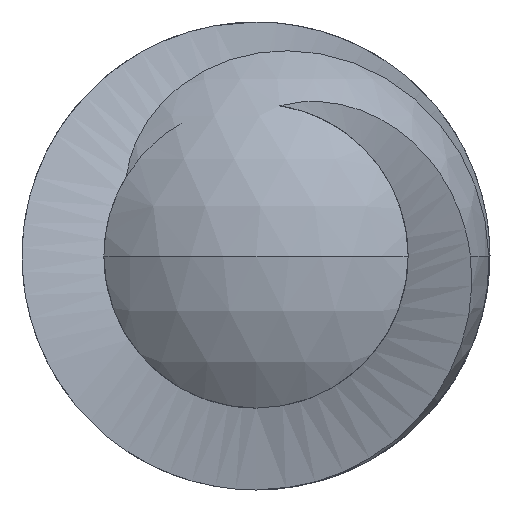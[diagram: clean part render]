
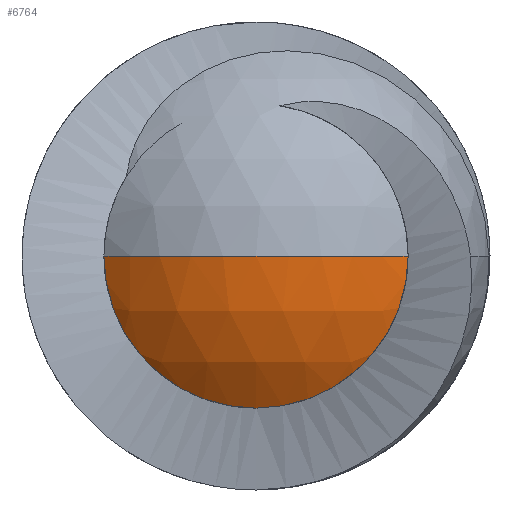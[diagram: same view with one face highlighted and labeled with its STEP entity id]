
A CAD part, left-side view. The second image highlights one B-rep face of the part: STEP entity #6764.
In plain terms, the highlighted spherical face has radius 10 mm.
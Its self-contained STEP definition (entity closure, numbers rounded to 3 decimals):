
#187 = DIRECTION ( 'NONE',  ( -1., 0., 0. ) ) ;
#409 = CARTESIAN_POINT ( 'NONE',  ( 2.401, 6.5, 0. ) ) ;
#585 = DIRECTION ( 'NONE',  ( 0., 0., 1. ) ) ;
#908 = EDGE_CURVE ( 'NONE', #6677, #5408, #6614, .T. ) ;
#1063 = ORIENTED_EDGE ( 'NONE', *, *, #8147, .T. ) ;
#1213 = CARTESIAN_POINT ( 'NONE',  ( 0., 0., 0. ) ) ;
#1290 = CARTESIAN_POINT ( 'NONE',  ( 10., 0., 0. ) ) ;
#1343 = ORIENTED_EDGE ( 'NONE', *, *, #908, .T. ) ;
#1570 = CARTESIAN_POINT ( 'NONE',  ( 10., 0., 0. ) ) ;
#2053 = CIRCLE ( 'NONE', #5266, 6.5 ) ;
#2284 = DIRECTION ( 'NONE',  ( 0., 1., 0. ) ) ;
#2414 = EDGE_CURVE ( 'NONE', #4061, #4855, #7619, .T. ) ;
#2487 = CARTESIAN_POINT ( 'NONE',  ( 2.401, 0., -6.5 ) ) ;
#2725 = EDGE_LOOP ( 'NONE', ( #1063, #1343, #4336, #3005 ) ) ;
#3005 = ORIENTED_EDGE ( 'NONE', *, *, #2414, .T. ) ;
#3468 = DIRECTION ( 'NONE',  ( -1., 0., 0. ) ) ;
#3601 = CIRCLE ( 'NONE', #8232, 10. ) ;
#3877 = CARTESIAN_POINT ( 'NONE',  ( 10., 0., 0. ) ) ;
#4061 = VERTEX_POINT ( 'NONE', #409 ) ;
#4069 = DIRECTION ( 'NONE',  ( 0., 0., -1. ) ) ;
#4117 = DIRECTION ( 'NONE',  ( 0., 0., -1. ) ) ;
#4336 = ORIENTED_EDGE ( 'NONE', *, *, #7035, .F. ) ;
#4855 = VERTEX_POINT ( 'NONE', #2487 ) ;
#5266 = AXIS2_PLACEMENT_3D ( 'NONE', #6038, #3468, #4117 ) ;
#5408 = VERTEX_POINT ( 'NONE', #1213 ) ;
#5598 = FACE_OUTER_BOUND ( 'NONE', #2725, .T. ) ;
#5665 = AXIS2_PLACEMENT_3D ( 'NONE', #5891, #187, #4069 ) ;
#5691 = DIRECTION ( 'NONE',  ( 1., 0., 0. ) ) ;
#5891 = CARTESIAN_POINT ( 'NONE',  ( 2.401, 0., 0. ) ) ;
#5901 = SPHERICAL_SURFACE ( 'NONE', #7265, 10. ) ;
#5913 = CARTESIAN_POINT ( 'NONE',  ( 2.401, -6.5, 0. ) ) ;
#6038 = CARTESIAN_POINT ( 'NONE',  ( 2.401, 0., 0. ) ) ;
#6614 = CIRCLE ( 'NONE', #7844, 10. ) ;
#6677 = VERTEX_POINT ( 'NONE', #5913 ) ;
#6764 = ADVANCED_FACE ( 'NONE', ( #5598 ), #5901, .T. ) ;
#7035 = EDGE_CURVE ( 'NONE', #4061, #5408, #3601, .T. ) ;
#7054 = DIRECTION ( 'NONE',  ( 0., 0., -1. ) ) ;
#7265 = AXIS2_PLACEMENT_3D ( 'NONE', #1570, #7325, #2284 ) ;
#7325 = DIRECTION ( 'NONE',  ( 0., 0., -1. ) ) ;
#7619 = CIRCLE ( 'NONE', #5665, 6.5 ) ;
#7660 = DIRECTION ( 'NONE',  ( 0., 1., 0. ) ) ;
#7844 = AXIS2_PLACEMENT_3D ( 'NONE', #1290, #7054, #7660 ) ;
#8147 = EDGE_CURVE ( 'NONE', #4855, #6677, #2053, .T. ) ;
#8232 = AXIS2_PLACEMENT_3D ( 'NONE', #3877, #585, #5691 ) ;
